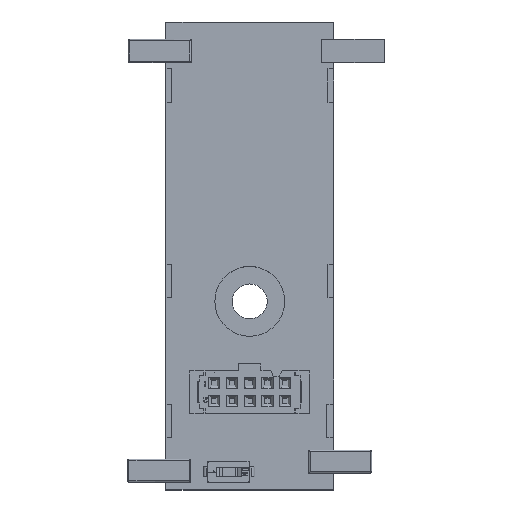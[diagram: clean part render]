
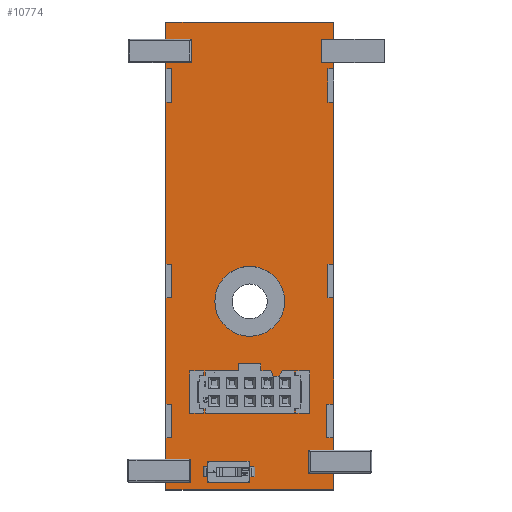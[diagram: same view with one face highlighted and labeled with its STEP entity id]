
A CAD part, top view. The second image highlights one B-rep face of the part: STEP entity #10774.
In plain terms, the highlighted planar face has unit normal (0, 0, 1).
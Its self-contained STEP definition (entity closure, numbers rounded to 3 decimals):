
#371=FACE_BOUND('',#1398,.T.);
#768=FACE_OUTER_BOUND('',#1397,.T.);
#1397=EDGE_LOOP('',(#8743,#8744,#8745,#8746,#8747,#8748,#8749,#8750,#8751,
#8752,#8753,#8754,#8755,#8756,#8757,#8758,#8759,#8760,#8761,#8762,#8763,
#8764,#8765,#8766,#8767,#8768,#8769,#8770));
#1398=EDGE_LOOP('',(#8771,#8772));
#1660=CIRCLE('',#11528,5.);
#1661=CIRCLE('',#11529,5.);
#2635=LINE('',#16393,#3970);
#2639=LINE('',#16401,#3974);
#2643=LINE('',#16409,#3978);
#2647=LINE('',#16417,#3982);
#2663=LINE('',#16449,#3998);
#2665=LINE('',#16454,#4000);
#2666=LINE('',#16456,#4001);
#2667=LINE('',#16458,#4002);
#2668=LINE('',#16460,#4003);
#2669=LINE('',#16462,#4004);
#2670=LINE('',#16464,#4005);
#2671=LINE('',#16466,#4006);
#2672=LINE('',#16468,#4007);
#2673=LINE('',#16470,#4008);
#2674=LINE('',#16472,#4009);
#2675=LINE('',#16473,#4010);
#2676=LINE('',#16475,#4011);
#2677=LINE('',#16477,#4012);
#2678=LINE('',#16478,#4013);
#2679=LINE('',#16480,#4014);
#2680=LINE('',#16482,#4015);
#2681=LINE('',#16483,#4016);
#2682=LINE('',#16485,#4017);
#2683=LINE('',#16487,#4018);
#2684=LINE('',#16488,#4019);
#2685=LINE('',#16490,#4020);
#2686=LINE('',#16492,#4021);
#2687=LINE('',#16493,#4022);
#3970=VECTOR('',#13441,1.);
#3974=VECTOR('',#13445,1.);
#3978=VECTOR('',#13449,1.);
#3982=VECTOR('',#13453,1.);
#3998=VECTOR('',#13471,1.);
#4000=VECTOR('',#13475,1.);
#4001=VECTOR('',#13476,1.);
#4002=VECTOR('',#13477,1.);
#4003=VECTOR('',#13478,1.);
#4004=VECTOR('',#13479,1.);
#4005=VECTOR('',#13480,1.);
#4006=VECTOR('',#13481,1.);
#4007=VECTOR('',#13482,1.);
#4008=VECTOR('',#13483,1.);
#4009=VECTOR('',#13484,1.);
#4010=VECTOR('',#13485,1.);
#4011=VECTOR('',#13486,1.);
#4012=VECTOR('',#13487,1.);
#4013=VECTOR('',#13488,1.);
#4014=VECTOR('',#13489,1.);
#4015=VECTOR('',#13490,1.);
#4016=VECTOR('',#13491,1.);
#4017=VECTOR('',#13492,1.);
#4018=VECTOR('',#13493,1.);
#4019=VECTOR('',#13494,1.);
#4020=VECTOR('',#13495,1.);
#4021=VECTOR('',#13496,1.);
#4022=VECTOR('',#13497,1.);
#4995=VERTEX_POINT('',#16390);
#4996=VERTEX_POINT('',#16392);
#4999=VERTEX_POINT('',#16398);
#5000=VERTEX_POINT('',#16400);
#5003=VERTEX_POINT('',#16406);
#5004=VERTEX_POINT('',#16408);
#5007=VERTEX_POINT('',#16414);
#5008=VERTEX_POINT('',#16416);
#5023=VERTEX_POINT('',#16447);
#5024=VERTEX_POINT('',#16452);
#5025=VERTEX_POINT('',#16453);
#5026=VERTEX_POINT('',#16455);
#5027=VERTEX_POINT('',#16457);
#5028=VERTEX_POINT('',#16459);
#5029=VERTEX_POINT('',#16461);
#5030=VERTEX_POINT('',#16463);
#5031=VERTEX_POINT('',#16465);
#5032=VERTEX_POINT('',#16467);
#5033=VERTEX_POINT('',#16469);
#5034=VERTEX_POINT('',#16471);
#5035=VERTEX_POINT('',#16474);
#5036=VERTEX_POINT('',#16476);
#5037=VERTEX_POINT('',#16479);
#5038=VERTEX_POINT('',#16481);
#5039=VERTEX_POINT('',#16484);
#5040=VERTEX_POINT('',#16486);
#5041=VERTEX_POINT('',#16489);
#5042=VERTEX_POINT('',#16491);
#5043=VERTEX_POINT('',#16494);
#5044=VERTEX_POINT('',#16495);
#6291=EDGE_CURVE('',#4995,#4996,#2635,.T.);
#6295=EDGE_CURVE('',#4999,#5000,#2639,.T.);
#6299=EDGE_CURVE('',#5003,#5004,#2643,.T.);
#6303=EDGE_CURVE('',#5007,#5008,#2647,.T.);
#6319=EDGE_CURVE('',#4995,#5023,#2663,.T.);
#6321=EDGE_CURVE('',#5024,#5025,#2665,.T.);
#6322=EDGE_CURVE('',#5024,#5026,#2666,.T.);
#6323=EDGE_CURVE('',#5027,#5026,#2667,.T.);
#6324=EDGE_CURVE('',#5027,#5028,#2668,.T.);
#6325=EDGE_CURVE('',#5028,#5029,#2669,.T.);
#6326=EDGE_CURVE('',#5029,#5030,#2670,.T.);
#6327=EDGE_CURVE('',#5031,#5030,#2671,.T.);
#6328=EDGE_CURVE('',#5031,#5032,#2672,.T.);
#6329=EDGE_CURVE('',#5032,#5033,#2673,.T.);
#6330=EDGE_CURVE('',#5033,#5034,#2674,.T.);
#6331=EDGE_CURVE('',#5008,#5034,#2675,.T.);
#6332=EDGE_CURVE('',#5035,#5007,#2676,.T.);
#6333=EDGE_CURVE('',#5036,#5035,#2677,.T.);
#6334=EDGE_CURVE('',#5036,#5004,#2678,.T.);
#6335=EDGE_CURVE('',#5037,#5003,#2679,.T.);
#6336=EDGE_CURVE('',#5038,#5037,#2680,.T.);
#6337=EDGE_CURVE('',#5038,#5000,#2681,.T.);
#6338=EDGE_CURVE('',#5039,#4999,#2682,.T.);
#6339=EDGE_CURVE('',#5040,#5039,#2683,.T.);
#6340=EDGE_CURVE('',#5040,#4996,#2684,.T.);
#6341=EDGE_CURVE('',#5023,#5041,#2685,.T.);
#6342=EDGE_CURVE('',#5041,#5042,#2686,.T.);
#6343=EDGE_CURVE('',#5042,#5025,#2687,.T.);
#6344=EDGE_CURVE('',#5043,#5044,#1660,.T.);
#6345=EDGE_CURVE('',#5044,#5043,#1661,.T.);
#8743=ORIENTED_EDGE('',*,*,#6321,.F.);
#8744=ORIENTED_EDGE('',*,*,#6322,.T.);
#8745=ORIENTED_EDGE('',*,*,#6323,.F.);
#8746=ORIENTED_EDGE('',*,*,#6324,.T.);
#8747=ORIENTED_EDGE('',*,*,#6325,.T.);
#8748=ORIENTED_EDGE('',*,*,#6326,.T.);
#8749=ORIENTED_EDGE('',*,*,#6327,.F.);
#8750=ORIENTED_EDGE('',*,*,#6328,.T.);
#8751=ORIENTED_EDGE('',*,*,#6329,.T.);
#8752=ORIENTED_EDGE('',*,*,#6330,.T.);
#8753=ORIENTED_EDGE('',*,*,#6331,.F.);
#8754=ORIENTED_EDGE('',*,*,#6303,.F.);
#8755=ORIENTED_EDGE('',*,*,#6332,.F.);
#8756=ORIENTED_EDGE('',*,*,#6333,.F.);
#8757=ORIENTED_EDGE('',*,*,#6334,.T.);
#8758=ORIENTED_EDGE('',*,*,#6299,.F.);
#8759=ORIENTED_EDGE('',*,*,#6335,.F.);
#8760=ORIENTED_EDGE('',*,*,#6336,.F.);
#8761=ORIENTED_EDGE('',*,*,#6337,.T.);
#8762=ORIENTED_EDGE('',*,*,#6295,.F.);
#8763=ORIENTED_EDGE('',*,*,#6338,.F.);
#8764=ORIENTED_EDGE('',*,*,#6339,.F.);
#8765=ORIENTED_EDGE('',*,*,#6340,.T.);
#8766=ORIENTED_EDGE('',*,*,#6291,.F.);
#8767=ORIENTED_EDGE('',*,*,#6319,.T.);
#8768=ORIENTED_EDGE('',*,*,#6341,.T.);
#8769=ORIENTED_EDGE('',*,*,#6342,.T.);
#8770=ORIENTED_EDGE('',*,*,#6343,.T.);
#8771=ORIENTED_EDGE('',*,*,#6344,.F.);
#8772=ORIENTED_EDGE('',*,*,#6345,.F.);
#10284=PLANE('',#11527);
#10774=ADVANCED_FACE('',(#768,#371),#10284,.T.);
#11527=AXIS2_PLACEMENT_3D('',#16451,#13473,#13474);
#11528=AXIS2_PLACEMENT_3D('',#16496,#13498,#13499);
#11529=AXIS2_PLACEMENT_3D('',#16497,#13500,#13501);
#13441=DIRECTION('',(0.,1.,0.));
#13445=DIRECTION('',(0.,1.,0.));
#13449=DIRECTION('',(0.,1.,0.));
#13453=DIRECTION('',(0.,1.,0.));
#13471=DIRECTION('',(1.,0.,0.));
#13473=DIRECTION('center_axis',(0.,0.,1.));
#13474=DIRECTION('ref_axis',(1.,0.,0.));
#13475=DIRECTION('',(-1.,0.,0.));
#13476=DIRECTION('',(0.,1.,0.));
#13477=DIRECTION('',(1.,0.,0.));
#13478=DIRECTION('',(0.,1.,0.));
#13479=DIRECTION('',(1.,0.,0.));
#13480=DIRECTION('',(0.,1.,0.));
#13481=DIRECTION('',(1.,0.,0.));
#13482=DIRECTION('',(0.,1.,0.));
#13483=DIRECTION('',(1.,0.,0.));
#13484=DIRECTION('',(0.,1.,0.));
#13485=DIRECTION('',(1.,0.,0.));
#13486=DIRECTION('',(-1.,0.,0.));
#13487=DIRECTION('',(0.,1.,0.));
#13488=DIRECTION('',(-1.,0.,0.));
#13489=DIRECTION('',(-1.,0.,0.));
#13490=DIRECTION('',(0.,1.,0.));
#13491=DIRECTION('',(-1.,0.,0.));
#13492=DIRECTION('',(-1.,0.,0.));
#13493=DIRECTION('',(0.,1.,0.));
#13494=DIRECTION('',(-1.,0.,0.));
#13495=DIRECTION('',(0.,1.,0.));
#13496=DIRECTION('',(-1.,0.,0.));
#13497=DIRECTION('',(0.,1.,0.));
#13498=DIRECTION('center_axis',(0.,0.,1.));
#13499=DIRECTION('ref_axis',(1.,0.,0.));
#13500=DIRECTION('center_axis',(0.,0.,1.));
#13501=DIRECTION('ref_axis',(1.,0.,0.));
#16390=CARTESIAN_POINT('',(0.,0.,5.6));
#16392=CARTESIAN_POINT('',(0.,7.5,5.6));
#16393=CARTESIAN_POINT('',(0.,0.,5.6));
#16398=CARTESIAN_POINT('',(0.,12.3,5.6));
#16400=CARTESIAN_POINT('',(0.,27.5,5.6));
#16401=CARTESIAN_POINT('',(0.,0.,5.6));
#16406=CARTESIAN_POINT('',(0.,32.3,5.6));
#16408=CARTESIAN_POINT('',(0.,55.5,5.6));
#16409=CARTESIAN_POINT('',(0.,0.,5.6));
#16414=CARTESIAN_POINT('',(0.,60.3,5.6));
#16416=CARTESIAN_POINT('',(0.,67.,5.6));
#16417=CARTESIAN_POINT('',(0.,0.,5.6));
#16447=CARTESIAN_POINT('',(24.,0.,5.6));
#16449=CARTESIAN_POINT('',(0.,0.,5.6));
#16451=CARTESIAN_POINT('Origin',(0.,0.,5.6));
#16452=CARTESIAN_POINT('',(24.,12.3,5.6));
#16453=CARTESIAN_POINT('',(23.,12.3,5.6));
#16454=CARTESIAN_POINT('',(11.5,12.3,5.6));
#16455=CARTESIAN_POINT('',(24.,27.5,5.6));
#16456=CARTESIAN_POINT('',(24.,0.,5.6));
#16457=CARTESIAN_POINT('',(23.2,27.5,5.6));
#16458=CARTESIAN_POINT('',(14.,27.5,5.6));
#16459=CARTESIAN_POINT('',(23.2,32.3,5.6));
#16460=CARTESIAN_POINT('',(23.2,13.75,5.6));
#16461=CARTESIAN_POINT('',(24.,32.3,5.6));
#16462=CARTESIAN_POINT('',(14.,32.3,5.6));
#16463=CARTESIAN_POINT('',(24.,55.5,5.6));
#16464=CARTESIAN_POINT('',(24.,0.,5.6));
#16465=CARTESIAN_POINT('',(23.2,55.5,5.6));
#16466=CARTESIAN_POINT('',(14.,55.5,5.6));
#16467=CARTESIAN_POINT('',(23.2,60.3,5.6));
#16468=CARTESIAN_POINT('',(23.2,27.75,5.6));
#16469=CARTESIAN_POINT('',(24.,60.3,5.6));
#16470=CARTESIAN_POINT('',(14.,60.3,5.6));
#16471=CARTESIAN_POINT('',(24.,67.,5.6));
#16472=CARTESIAN_POINT('',(24.,0.,5.6));
#16473=CARTESIAN_POINT('',(0.,67.,5.6));
#16474=CARTESIAN_POINT('',(0.8,60.3,5.6));
#16475=CARTESIAN_POINT('',(-2.,60.3,5.6));
#16476=CARTESIAN_POINT('',(0.8,55.5,5.6));
#16477=CARTESIAN_POINT('',(0.8,27.75,5.6));
#16478=CARTESIAN_POINT('',(-2.,55.5,5.6));
#16479=CARTESIAN_POINT('',(0.8,32.3,5.6));
#16480=CARTESIAN_POINT('',(-2.,32.3,5.6));
#16481=CARTESIAN_POINT('',(0.8,27.5,5.6));
#16482=CARTESIAN_POINT('',(0.8,13.75,5.6));
#16483=CARTESIAN_POINT('',(-2.,27.5,5.6));
#16484=CARTESIAN_POINT('',(0.8,12.3,5.6));
#16485=CARTESIAN_POINT('',(-2.,12.3,5.6));
#16486=CARTESIAN_POINT('',(0.8,7.5,5.6));
#16487=CARTESIAN_POINT('',(0.8,3.75,5.6));
#16488=CARTESIAN_POINT('',(-2.,7.5,5.6));
#16489=CARTESIAN_POINT('',(24.,7.5,5.6));
#16490=CARTESIAN_POINT('',(24.,0.,5.6));
#16491=CARTESIAN_POINT('',(23.,7.5,5.6));
#16492=CARTESIAN_POINT('',(11.5,7.5,5.6));
#16493=CARTESIAN_POINT('',(23.,3.75,5.6));
#16494=CARTESIAN_POINT('',(17.,27.,5.6));
#16495=CARTESIAN_POINT('',(7.,27.,5.6));
#16496=CARTESIAN_POINT('Origin',(12.,27.,5.6));
#16497=CARTESIAN_POINT('Origin',(12.,27.,5.6));
